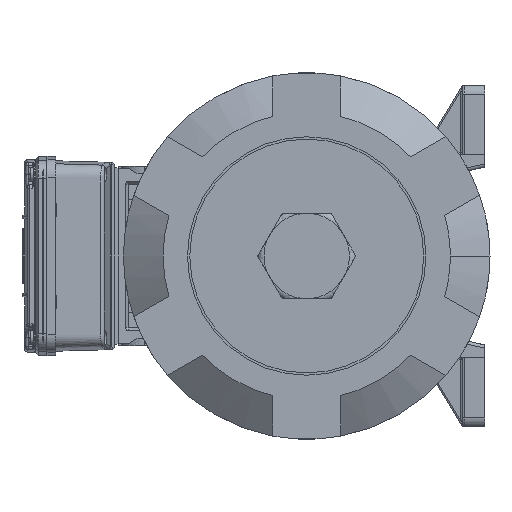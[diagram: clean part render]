
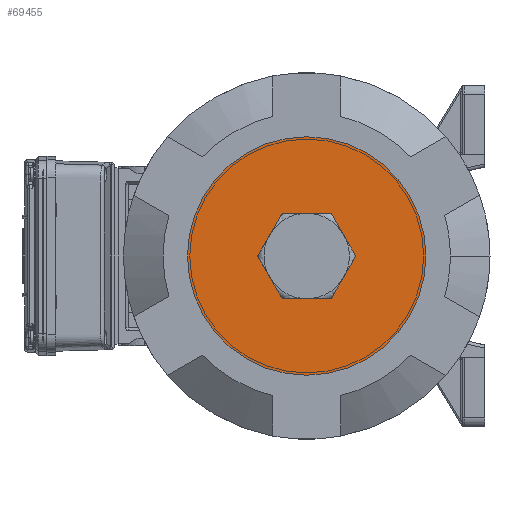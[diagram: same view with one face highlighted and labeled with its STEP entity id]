
A CAD part, left-side view. The second image highlights one B-rep face of the part: STEP entity #69455.
In plain terms, the highlighted planar face has unit normal (-1, 0, 0) as drawn and (1, 0, 0) by its records, which use the part's own axes.
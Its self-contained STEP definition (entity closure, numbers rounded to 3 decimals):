
#31 = ORIENTED_EDGE ( 'NONE', *, *, #69161, .F. ) ;
#922 = FACE_OUTER_BOUND ( 'NONE', #87426, .T. ) ;
#3050 = CIRCLE ( 'NONE', #94882, 19.25 ) ;
#3066 = CIRCLE ( 'NONE', #20588, 19.25 ) ;
#3604 = VERTEX_POINT ( 'NONE', #68780 ) ;
#3695 = EDGE_LOOP ( 'NONE', ( #8769, #111972 ) ) ;
#5368 = DIRECTION ( 'NONE',  ( 0., 0., 1. ) ) ;
#7457 = DIRECTION ( 'NONE',  ( 1., 0., 0. ) ) ;
#8721 = CARTESIAN_POINT ( 'NONE',  ( 126., 0., 0. ) ) ;
#8769 = ORIENTED_EDGE ( 'NONE', *, *, #35232, .F. ) ;
#17979 = DIRECTION ( 'NONE',  ( 0., 0., 1. ) ) ;
#18857 = DIRECTION ( 'NONE',  ( 0., 0., 1. ) ) ;
#19168 = EDGE_CURVE ( 'NONE', #88361, #47027, #73818, .T. ) ;
#20588 = AXIS2_PLACEMENT_3D ( 'NONE', #8721, #72550, #17979 ) ;
#35232 = EDGE_CURVE ( 'NONE', #3604, #77633, #3050, .T. ) ;
#35483 = AXIS2_PLACEMENT_3D ( 'NONE', #114775, #59974, #5368 ) ;
#42424 = DIRECTION ( 'NONE',  ( -1., 0., 0. ) ) ;
#47027 = VERTEX_POINT ( 'NONE', #52830 ) ;
#52830 = CARTESIAN_POINT ( 'NONE',  ( 126., 0., -67. ) ) ;
#57688 = ORIENTED_EDGE ( 'NONE', *, *, #19168, .F. ) ;
#59974 = DIRECTION ( 'NONE',  ( -1., 0., 0. ) ) ;
#62126 = CARTESIAN_POINT ( 'NONE',  ( 126., 0., 0. ) ) ;
#64260 = CARTESIAN_POINT ( 'NONE',  ( 126., 17.5, 0. ) ) ;
#68780 = CARTESIAN_POINT ( 'NONE',  ( 126., 0., 19.25 ) ) ;
#69161 = EDGE_CURVE ( 'NONE', #47027, #88361, #118080, .T. ) ;
#69455 = ADVANCED_FACE ( 'NONE', ( #95134, #922 ), #100579, .F. ) ;
#71297 = DIRECTION ( 'NONE',  ( 0., 0., 1. ) ) ;
#72550 = DIRECTION ( 'NONE',  ( 1., 0., 0. ) ) ;
#73469 = DIRECTION ( 'NONE',  ( -1., 0., 0. ) ) ;
#73818 = CIRCLE ( 'NONE', #35483, 67. ) ;
#74969 = CARTESIAN_POINT ( 'NONE',  ( 126., 0., 67. ) ) ;
#76956 = CARTESIAN_POINT ( 'NONE',  ( 126., 0., -19.25 ) ) ;
#77633 = VERTEX_POINT ( 'NONE', #76956 ) ;
#80386 = EDGE_CURVE ( 'NONE', #77633, #3604, #3066, .T. ) ;
#82608 = AXIS2_PLACEMENT_3D ( 'NONE', #97065, #42424, #106222 ) ;
#87426 = EDGE_LOOP ( 'NONE', ( #57688, #31 ) ) ;
#88361 = VERTEX_POINT ( 'NONE', #74969 ) ;
#92611 = AXIS2_PLACEMENT_3D ( 'NONE', #64260, #73469, #18857 ) ;
#94882 = AXIS2_PLACEMENT_3D ( 'NONE', #62126, #7457, #71297 ) ;
#95134 = FACE_BOUND ( 'NONE', #3695, .T. ) ;
#97065 = CARTESIAN_POINT ( 'NONE',  ( 126., 0., 0. ) ) ;
#100579 = PLANE ( 'NONE',  #92611 ) ;
#106222 = DIRECTION ( 'NONE',  ( 0., 0., 1. ) ) ;
#111972 = ORIENTED_EDGE ( 'NONE', *, *, #80386, .F. ) ;
#114775 = CARTESIAN_POINT ( 'NONE',  ( 126., 0., 0. ) ) ;
#118080 = CIRCLE ( 'NONE', #82608, 67. ) ;
